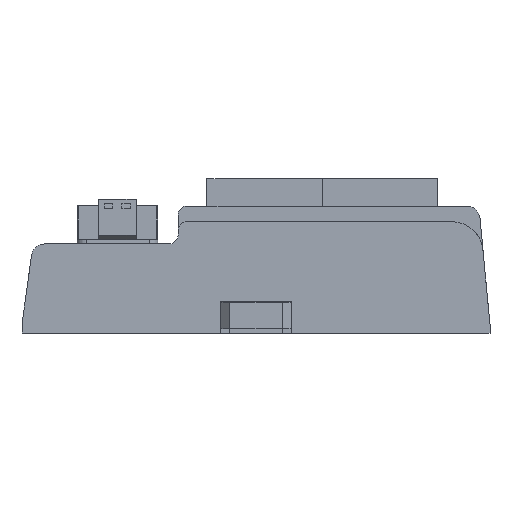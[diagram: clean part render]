
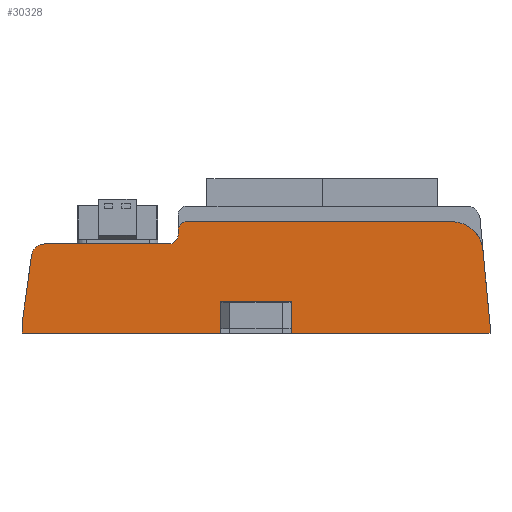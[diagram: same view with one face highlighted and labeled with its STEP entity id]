
A CAD part, top view. The second image highlights one B-rep face of the part: STEP entity #30328.
In plain terms, the highlighted planar face has unit normal (0, 0, 1).
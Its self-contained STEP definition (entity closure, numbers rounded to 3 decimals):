
#12 = ORIENTED_EDGE ( 'NONE', *, *, #39950, .F. ) ;
#278 = EDGE_LOOP ( 'NONE', ( #11576, #12, #36739, #3086, #15404, #31615, #12466, #42176, #17895, #3126, #2195, #14240, #35178, #6573, #42916, #22012 ) ) ;
#1036 = VECTOR ( 'NONE', #25336, 1000. ) ;
#1371 = VECTOR ( 'NONE', #43366, 1000. ) ;
#1917 = DIRECTION ( 'NONE',  ( 0., -1., 0. ) ) ;
#2108 = DIRECTION ( 'NONE',  ( -1., 0., 0. ) ) ;
#2195 = ORIENTED_EDGE ( 'NONE', *, *, #37547, .T. ) ;
#2634 = CARTESIAN_POINT ( 'NONE',  ( 0., 20., 0. ) ) ;
#3086 = ORIENTED_EDGE ( 'NONE', *, *, #3424, .F. ) ;
#3126 = ORIENTED_EDGE ( 'NONE', *, *, #32840, .T. ) ;
#3424 = EDGE_CURVE ( 'NONE', #7797, #39917, #32491, .T. ) ;
#3674 = CARTESIAN_POINT ( 'NONE',  ( 0., 0., 0. ) ) ;
#4379 = LINE ( 'NONE', #16165, #22459 ) ;
#4569 = CARTESIAN_POINT ( 'NONE',  ( 5.112, 20., 0. ) ) ;
#4846 = EDGE_CURVE ( 'NONE', #27166, #24384, #32348, .T. ) ;
#5652 = LINE ( 'NONE', #30055, #33343 ) ;
#5692 = VERTEX_POINT ( 'NONE', #7517 ) ;
#6531 = CARTESIAN_POINT ( 'NONE',  ( 5.112, 17., 0. ) ) ;
#6542 = LINE ( 'NONE', #2634, #15048 ) ;
#6573 = ORIENTED_EDGE ( 'NONE', *, *, #9776, .T. ) ;
#7517 = CARTESIAN_POINT ( 'NONE',  ( 105., 2., 0. ) ) ;
#7797 = VERTEX_POINT ( 'NONE', #12740 ) ;
#8144 = CARTESIAN_POINT ( 'NONE',  ( 0., 0., 0. ) ) ;
#8812 = EDGE_CURVE ( 'NONE', #14087, #5692, #39705, .T. ) ;
#9776 = EDGE_CURVE ( 'NONE', #11991, #27166, #39599, .T. ) ;
#10115 = EDGE_CURVE ( 'NONE', #32219, #33470, #34482, .T. ) ;
#10116 = CARTESIAN_POINT ( 'NONE',  ( 2.141, 17.413, 0. ) ) ;
#10178 = DIRECTION ( 'NONE',  ( 1., 0., 0. ) ) ;
#10958 = LINE ( 'NONE', #28860, #1371 ) ;
#10973 = CIRCLE ( 'NONE', #35509, 2. ) ;
#11532 = CARTESIAN_POINT ( 'NONE',  ( 105., 0., 0. ) ) ;
#11576 = ORIENTED_EDGE ( 'NONE', *, *, #31562, .T. ) ;
#11597 = VERTEX_POINT ( 'NONE', #23747 ) ;
#11817 = DIRECTION ( 'NONE',  ( 0., 0., 1. ) ) ;
#11914 = CARTESIAN_POINT ( 'NONE',  ( 96.429, 25., 0. ) ) ;
#11991 = VERTEX_POINT ( 'NONE', #4569 ) ;
#12001 = VECTOR ( 'NONE', #36811, 1000. ) ;
#12201 = VECTOR ( 'NONE', #13052, 1000. ) ;
#12466 = ORIENTED_EDGE ( 'NONE', *, *, #13219, .T. ) ;
#12637 = LINE ( 'NONE', #45415, #35806 ) ;
#12685 = DIRECTION ( 'NONE',  ( 1., 0., 0. ) ) ;
#12740 = CARTESIAN_POINT ( 'NONE',  ( 60.5, 0., 0. ) ) ;
#13012 = AXIS2_PLACEMENT_3D ( 'NONE', #14584, #28974, #43498 ) ;
#13052 = DIRECTION ( 'NONE',  ( -0.096, 0.995, 0. ) ) ;
#13219 = EDGE_CURVE ( 'NONE', #5692, #20204, #39883, .T. ) ;
#13232 = LINE ( 'NONE', #8144, #31293 ) ;
#13368 = FACE_OUTER_BOUND ( 'NONE', #278, .T. ) ;
#13521 = VERTEX_POINT ( 'NONE', #18547 ) ;
#13555 = DIRECTION ( 'NONE',  ( -1., 0., 0. ) ) ;
#13630 = DIRECTION ( 'NONE',  ( -0.138, -0.99, 0. ) ) ;
#14087 = VERTEX_POINT ( 'NONE', #14703 ) ;
#14240 = ORIENTED_EDGE ( 'NONE', *, *, #41450, .T. ) ;
#14584 = CARTESIAN_POINT ( 'NONE',  ( 0., 0., 0. ) ) ;
#14703 = CARTESIAN_POINT ( 'NONE',  ( 105., 0., 0. ) ) ;
#15048 = VECTOR ( 'NONE', #13555, 1000. ) ;
#15293 = VECTOR ( 'NONE', #12685, 1000. ) ;
#15321 = DIRECTION ( 'NONE',  ( 0., 0., 1. ) ) ;
#15404 = ORIENTED_EDGE ( 'NONE', *, *, #44123, .T. ) ;
#15699 = EDGE_CURVE ( 'NONE', #25048, #11991, #6542, .T. ) ;
#16165 = CARTESIAN_POINT ( 'NONE',  ( 35., 0., 0. ) ) ;
#17895 = ORIENTED_EDGE ( 'NONE', *, *, #10115, .F. ) ;
#18210 = PLANE ( 'NONE',  #13012 ) ;
#18321 = AXIS2_PLACEMENT_3D ( 'NONE', #42406, #20768, #46094 ) ;
#18547 = CARTESIAN_POINT ( 'NONE',  ( 0., 0., 0. ) ) ;
#19666 = EDGE_CURVE ( 'NONE', #24384, #13521, #5652, .T. ) ;
#20204 = VERTEX_POINT ( 'NONE', #25731 ) ;
#20570 = VERTEX_POINT ( 'NONE', #43086 ) ;
#20768 = DIRECTION ( 'NONE',  ( 0., 0., -1. ) ) ;
#20886 = CARTESIAN_POINT ( 'NONE',  ( -0.273, 0.038, 0. ) ) ;
#21639 = VECTOR ( 'NONE', #13630, 1000. ) ;
#22012 = ORIENTED_EDGE ( 'NONE', *, *, #19666, .T. ) ;
#22459 = VECTOR ( 'NONE', #1917, 1000. ) ;
#22907 = VECTOR ( 'NONE', #44402, 1000. ) ;
#23747 = CARTESIAN_POINT ( 'NONE',  ( 35., 23., 0. ) ) ;
#23817 = CARTESIAN_POINT ( 'NONE',  ( 0., 2., 0. ) ) ;
#23946 = CARTESIAN_POINT ( 'NONE',  ( 104.229, 10.022, 0. ) ) ;
#24134 = EDGE_CURVE ( 'NONE', #20204, #33470, #42139, .T. ) ;
#24384 = VERTEX_POINT ( 'NONE', #23817 ) ;
#25048 = VERTEX_POINT ( 'NONE', #27890 ) ;
#25336 = DIRECTION ( 'NONE',  ( 1., 0., 0. ) ) ;
#25731 = CARTESIAN_POINT ( 'NONE',  ( 103.397, 18.67, 0. ) ) ;
#27166 = VERTEX_POINT ( 'NONE', #10116 ) ;
#27687 = VERTEX_POINT ( 'NONE', #27952 ) ;
#27890 = CARTESIAN_POINT ( 'NONE',  ( 33., 20., 0. ) ) ;
#27952 = CARTESIAN_POINT ( 'NONE',  ( 44.5, 7., 0. ) ) ;
#28361 = CIRCLE ( 'NONE', #18321, 2. ) ;
#28860 = CARTESIAN_POINT ( 'NONE',  ( 44.5, 5.5, 0. ) ) ;
#28974 = DIRECTION ( 'NONE',  ( 0., 0., 1. ) ) ;
#29866 = VERTEX_POINT ( 'NONE', #36894 ) ;
#30055 = CARTESIAN_POINT ( 'NONE',  ( 0., 0., 0. ) ) ;
#30328 = ADVANCED_FACE ( 'NONE', ( #13368 ), #18210, .T. ) ;
#30701 = CARTESIAN_POINT ( 'NONE',  ( 0., 25., 0. ) ) ;
#30967 = AXIS2_PLACEMENT_3D ( 'NONE', #6531, #31805, #10178 ) ;
#31293 = VECTOR ( 'NONE', #37052, 1000. ) ;
#31562 = EDGE_CURVE ( 'NONE', #13521, #20570, #13232, .T. ) ;
#31615 = ORIENTED_EDGE ( 'NONE', *, *, #8812, .T. ) ;
#31805 = DIRECTION ( 'NONE',  ( 0., 0., 1. ) ) ;
#32219 = VERTEX_POINT ( 'NONE', #40624 ) ;
#32348 = LINE ( 'NONE', #20886, #21639 ) ;
#32491 = LINE ( 'NONE', #44249, #22907 ) ;
#32840 = EDGE_CURVE ( 'NONE', #32219, #11597, #10973, .T. ) ;
#33343 = VECTOR ( 'NONE', #33651, 1000. ) ;
#33445 = CARTESIAN_POINT ( 'NONE',  ( 37., 23., 0. ) ) ;
#33470 = VERTEX_POINT ( 'NONE', #11914 ) ;
#33651 = DIRECTION ( 'NONE',  ( 0., -1., 0. ) ) ;
#34482 = LINE ( 'NONE', #30701, #15293 ) ;
#35178 = ORIENTED_EDGE ( 'NONE', *, *, #15699, .T. ) ;
#35509 = AXIS2_PLACEMENT_3D ( 'NONE', #33445, #11817, #37090 ) ;
#35806 = VECTOR ( 'NONE', #2108, 1000. ) ;
#36739 = ORIENTED_EDGE ( 'NONE', *, *, #40222, .F. ) ;
#36811 = DIRECTION ( 'NONE',  ( 0., 1., 0. ) ) ;
#36894 = CARTESIAN_POINT ( 'NONE',  ( 35., 22., 0. ) ) ;
#36947 = CARTESIAN_POINT ( 'NONE',  ( 96.429, 18., 0. ) ) ;
#37052 = DIRECTION ( 'NONE',  ( 1., 0., 0. ) ) ;
#37090 = DIRECTION ( 'NONE',  ( 1., 0., 0. ) ) ;
#37547 = EDGE_CURVE ( 'NONE', #11597, #29866, #4379, .T. ) ;
#39440 = LINE ( 'NONE', #3674, #1036 ) ;
#39599 = CIRCLE ( 'NONE', #30967, 3. ) ;
#39705 = LINE ( 'NONE', #11532, #12001 ) ;
#39883 = LINE ( 'NONE', #23946, #12201 ) ;
#39917 = VERTEX_POINT ( 'NONE', #46710 ) ;
#39950 = EDGE_CURVE ( 'NONE', #27687, #20570, #10958, .T. ) ;
#40222 = EDGE_CURVE ( 'NONE', #39917, #27687, #12637, .T. ) ;
#40576 = DIRECTION ( 'NONE',  ( 1., 0., 0. ) ) ;
#40624 = CARTESIAN_POINT ( 'NONE',  ( 37., 25., 0. ) ) ;
#41450 = EDGE_CURVE ( 'NONE', #29866, #25048, #28361, .T. ) ;
#42139 = CIRCLE ( 'NONE', #46463, 7. ) ;
#42176 = ORIENTED_EDGE ( 'NONE', *, *, #24134, .T. ) ;
#42406 = CARTESIAN_POINT ( 'NONE',  ( 33., 22., 0. ) ) ;
#42916 = ORIENTED_EDGE ( 'NONE', *, *, #4846, .T. ) ;
#43086 = CARTESIAN_POINT ( 'NONE',  ( 44.5, 0., 0. ) ) ;
#43366 = DIRECTION ( 'NONE',  ( 0., -1., 0. ) ) ;
#43498 = DIRECTION ( 'NONE',  ( 1., 0., 0. ) ) ;
#44123 = EDGE_CURVE ( 'NONE', #7797, #14087, #39440, .T. ) ;
#44249 = CARTESIAN_POINT ( 'NONE',  ( 60.5, 7., 0. ) ) ;
#44402 = DIRECTION ( 'NONE',  ( 0., 1., 0. ) ) ;
#45415 = CARTESIAN_POINT ( 'NONE',  ( 44.5, 7., 0. ) ) ;
#46094 = DIRECTION ( 'NONE',  ( 1., 0., 0. ) ) ;
#46463 = AXIS2_PLACEMENT_3D ( 'NONE', #36947, #15321, #40576 ) ;
#46710 = CARTESIAN_POINT ( 'NONE',  ( 60.5, 7., 0. ) ) ;
